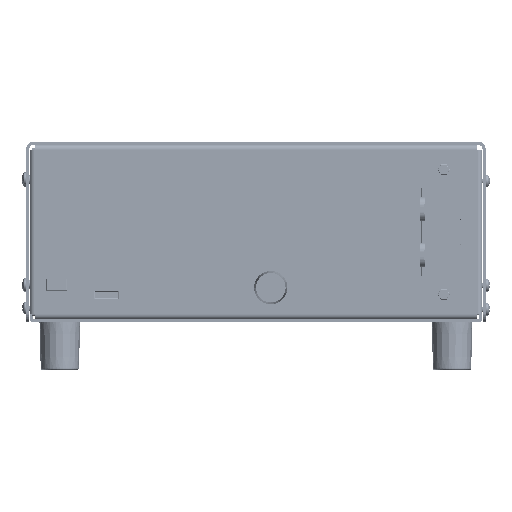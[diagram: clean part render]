
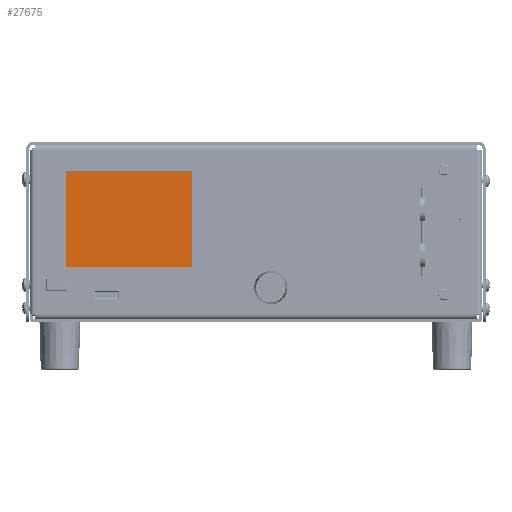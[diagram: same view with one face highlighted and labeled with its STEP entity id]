
A CAD part, front view. The second image highlights one B-rep face of the part: STEP entity #27675.
In plain terms, the highlighted planar face has unit normal (0, -1, 0) as drawn and (0, 0, 1) by its records, which use the part's own axes.
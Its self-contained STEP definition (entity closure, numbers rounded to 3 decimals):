
#27675=ADVANCED_FACE('',(#58993),#58994,.T.);
#58993=FACE_OUTER_BOUND('',#112799,.T.);
#58994=PLANE('',#112800);
#112799=EDGE_LOOP('',(#196529,#196530,#196531,#196532));
#112800=AXIS2_PLACEMENT_3D('',#196533,#196534,#196535);
#196529=ORIENTED_EDGE('',*,*,#255394,.F.);
#196530=ORIENTED_EDGE('',*,*,#255407,.F.);
#196531=ORIENTED_EDGE('',*,*,#255403,.F.);
#196532=ORIENTED_EDGE('',*,*,#255399,.F.);
#196533=CARTESIAN_POINT('',(34.79,28.78,-5.5));
#196534=DIRECTION('',(-0.0,0.0,1.0));
#196535=DIRECTION('',(1.0,0.0,0.0));
#255394=EDGE_CURVE('',#310722,#310723,#310724,.T.);
#255399=EDGE_CURVE('',#310723,#310731,#310732,.T.);
#255403=EDGE_CURVE('',#310731,#310737,#310738,.T.);
#255407=EDGE_CURVE('',#310737,#310722,#310743,.T.);
#310722=VERTEX_POINT('',#394491);
#310723=VERTEX_POINT('',#394492);
#310724=LINE('',#394493,#394494);
#310731=VERTEX_POINT('',#394504);
#310732=LINE('',#394505,#394506);
#310737=VERTEX_POINT('',#394513);
#310738=LINE('',#394514,#394515);
#310743=LINE('',#394522,#394523);
#394491=CARTESIAN_POINT('',(4.49,51.88,-5.5));
#394492=CARTESIAN_POINT('',(65.09,51.88,-5.5));
#394493=CARTESIAN_POINT('',(4.49,51.88,-5.5));
#394494=VECTOR('',#448451,1.0);
#394504=CARTESIAN_POINT('',(65.09,5.68,-5.5));
#394505=CARTESIAN_POINT('',(65.09,51.88,-5.5));
#394506=VECTOR('',#448455,1.0);
#394513=CARTESIAN_POINT('',(4.49,5.68,-5.5));
#394514=CARTESIAN_POINT('',(65.09,5.68,-5.5));
#394515=VECTOR('',#448458,1.0);
#394522=CARTESIAN_POINT('',(4.49,5.68,-5.5));
#394523=VECTOR('',#448461,1.0);
#448451=DIRECTION('',(1.0,0.0,0.0));
#448455=DIRECTION('',(0.0,-1.0,0.0));
#448458=DIRECTION('',(-1.0,0.0,0.0));
#448461=DIRECTION('',(0.0,1.0,0.0));
